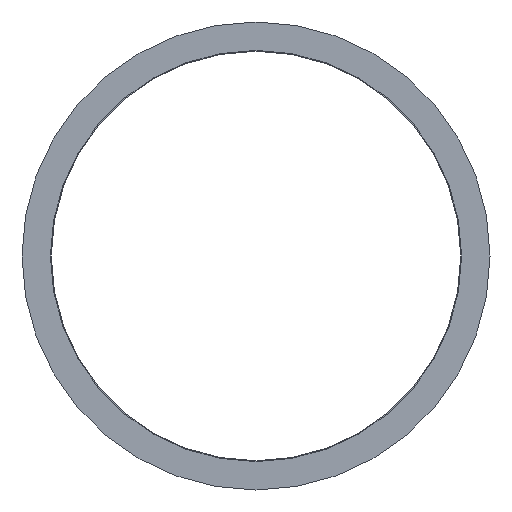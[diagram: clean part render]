
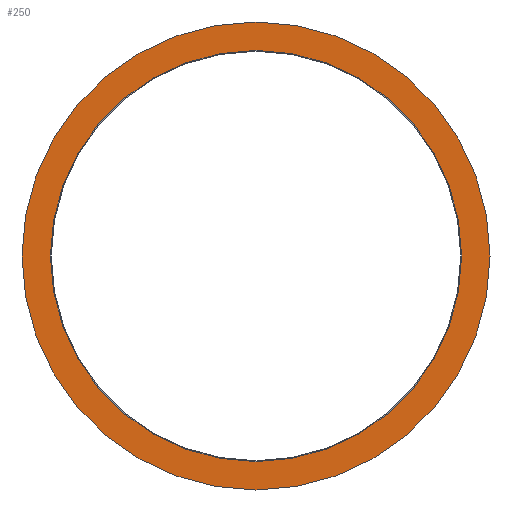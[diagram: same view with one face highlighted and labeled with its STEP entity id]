
A CAD part, left-side view. The second image highlights one B-rep face of the part: STEP entity #250.
In plain terms, the highlighted planar face has unit normal (-1, 0, 0).
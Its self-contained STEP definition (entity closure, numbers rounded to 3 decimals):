
#2 = CARTESIAN_POINT ( 'NONE',  ( -3.36, 0., 16. ) ) ;
#15 = DIRECTION ( 'NONE',  ( -1., 0., 0. ) ) ;
#27 = CIRCLE ( 'NONE', #332, 14.055 ) ;
#49 = DIRECTION ( 'NONE',  ( 0., 0., 1. ) ) ;
#53 = EDGE_LOOP ( 'NONE', ( #220, #315 ) ) ;
#62 = FACE_BOUND ( 'NONE', #236, .T. ) ;
#66 = VERTEX_POINT ( 'NONE', #2 ) ;
#79 = EDGE_CURVE ( 'NONE', #251, #341, #27, .T. ) ;
#81 = CIRCLE ( 'NONE', #304, 16. ) ;
#87 = EDGE_CURVE ( 'NONE', #66, #196, #163, .T. ) ;
#100 = CARTESIAN_POINT ( 'NONE',  ( -3.36, 0., 0. ) ) ;
#109 = DIRECTION ( 'NONE',  ( 0., 0., 1. ) ) ;
#137 = DIRECTION ( 'NONE',  ( 0., 0., 1. ) ) ;
#160 = DIRECTION ( 'NONE',  ( -1., 0., 0. ) ) ;
#163 = CIRCLE ( 'NONE', #395, 16. ) ;
#167 = CARTESIAN_POINT ( 'NONE',  ( -3.36, 0., 0. ) ) ;
#179 = CARTESIAN_POINT ( 'NONE',  ( -3.36, 0., 0. ) ) ;
#196 = VERTEX_POINT ( 'NONE', #268 ) ;
#197 = CARTESIAN_POINT ( 'NONE',  ( -3.36, 0., -14.055 ) ) ;
#210 = CARTESIAN_POINT ( 'NONE',  ( -3.36, 0., 0. ) ) ;
#212 = EDGE_CURVE ( 'NONE', #196, #66, #81, .T. ) ;
#217 = PLANE ( 'NONE',  #387 ) ;
#218 = DIRECTION ( 'NONE',  ( 0., 0., 1. ) ) ;
#220 = ORIENTED_EDGE ( 'NONE', *, *, #87, .T. ) ;
#222 = CIRCLE ( 'NONE', #367, 14.055 ) ;
#236 = EDGE_LOOP ( 'NONE', ( #282, #307 ) ) ;
#250 = ADVANCED_FACE ( 'NONE', ( #62, #270 ), #217, .F. ) ;
#251 = VERTEX_POINT ( 'NONE', #197 ) ;
#268 = CARTESIAN_POINT ( 'NONE',  ( -3.36, 0., -16. ) ) ;
#270 = FACE_OUTER_BOUND ( 'NONE', #53, .T. ) ;
#280 = EDGE_CURVE ( 'NONE', #341, #251, #222, .T. ) ;
#282 = ORIENTED_EDGE ( 'NONE', *, *, #79, .F. ) ;
#283 = DIRECTION ( 'NONE',  ( -1., 0., 0. ) ) ;
#304 = AXIS2_PLACEMENT_3D ( 'NONE', #210, #337, #218 ) ;
#307 = ORIENTED_EDGE ( 'NONE', *, *, #280, .F. ) ;
#309 = CARTESIAN_POINT ( 'NONE',  ( -3.36, 0., 14.055 ) ) ;
#315 = ORIENTED_EDGE ( 'NONE', *, *, #212, .T. ) ;
#332 = AXIS2_PLACEMENT_3D ( 'NONE', #100, #283, #137 ) ;
#337 = DIRECTION ( 'NONE',  ( -1., 0., 0. ) ) ;
#341 = VERTEX_POINT ( 'NONE', #309 ) ;
#367 = AXIS2_PLACEMENT_3D ( 'NONE', #179, #160, #49 ) ;
#382 = CARTESIAN_POINT ( 'NONE',  ( -3.36, 0., 0. ) ) ;
#387 = AXIS2_PLACEMENT_3D ( 'NONE', #167, #404, #389 ) ;
#389 = DIRECTION ( 'NONE',  ( 0., 0., -1. ) ) ;
#395 = AXIS2_PLACEMENT_3D ( 'NONE', #382, #15, #109 ) ;
#404 = DIRECTION ( 'NONE',  ( 1., 0., 0. ) ) ;
